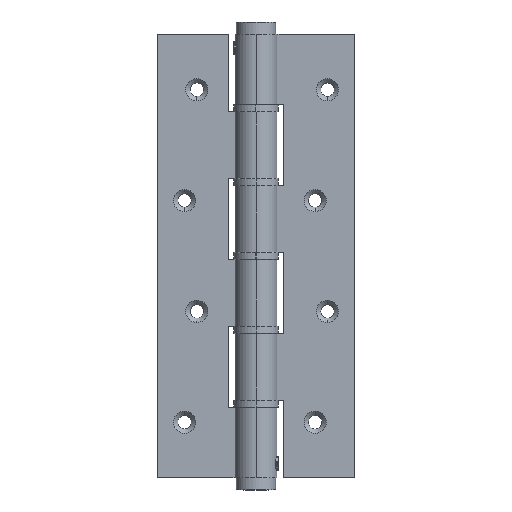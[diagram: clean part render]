
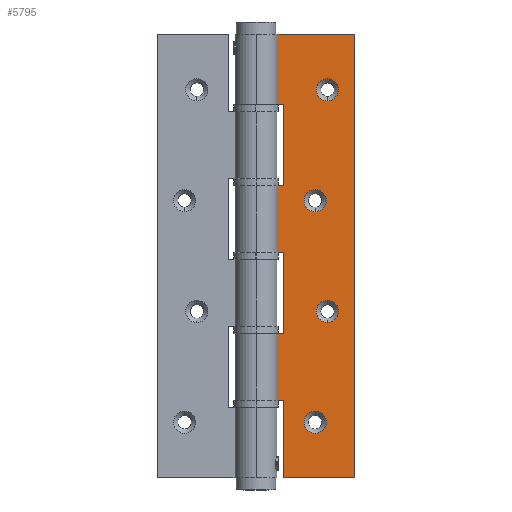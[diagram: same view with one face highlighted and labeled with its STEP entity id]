
A CAD part, front view. The second image highlights one B-rep face of the part: STEP entity #5795.
In plain terms, the highlighted planar face has unit normal (0, -1, 0) as drawn and (-1, 0, 0) by its records, which use the part's own axes.
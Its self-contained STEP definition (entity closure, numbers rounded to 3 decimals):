
#4543=CARTESIAN_POINT('',(-1.202,18.383,104.0));
#4544=VERTEX_POINT('',#4543);
#4552=CARTESIAN_POINT('',(-1.202,18.383,95.0));
#4553=VERTEX_POINT('',#4552);
#4560=CARTESIAN_POINT('',(-1.202,18.383,99.5));
#4561=DIRECTION('',(1.0,0.0,0.0));
#4562=DIRECTION('',(0.0,0.0,1.0));
#4563=AXIS2_PLACEMENT_3D('',#4560,#4561,#4562);
#4564=CIRCLE('',#4563,4.5);
#4565=EDGE_CURVE('',#4544,#4553,#4564,.T.);
#4617=CARTESIAN_POINT('',(-1.202,23.383,59.0));
#4618=VERTEX_POINT('',#4617);
#4626=CARTESIAN_POINT('',(-1.202,23.383,50.0));
#4627=VERTEX_POINT('',#4626);
#4634=CARTESIAN_POINT('',(-1.202,23.383,54.5));
#4635=DIRECTION('',(1.0,0.0,0.0));
#4636=DIRECTION('',(0.0,0.0,1.0));
#4637=AXIS2_PLACEMENT_3D('',#4634,#4635,#4636);
#4638=CIRCLE('',#4637,4.5);
#4639=EDGE_CURVE('',#4618,#4627,#4638,.T.);
#4691=CARTESIAN_POINT('',(-1.202,23.383,-31.0));
#4692=VERTEX_POINT('',#4691);
#4700=CARTESIAN_POINT('',(-1.202,23.383,-40.0));
#4701=VERTEX_POINT('',#4700);
#4708=CARTESIAN_POINT('',(-1.202,23.383,-35.5));
#4709=DIRECTION('',(1.0,0.0,0.0));
#4710=DIRECTION('',(0.0,0.0,1.0));
#4711=AXIS2_PLACEMENT_3D('',#4708,#4709,#4710);
#4712=CIRCLE('',#4711,4.5);
#4713=EDGE_CURVE('',#4692,#4701,#4712,.T.);
#4765=CARTESIAN_POINT('',(-1.202,18.383,14.0));
#4766=VERTEX_POINT('',#4765);
#4774=CARTESIAN_POINT('',(-1.202,18.383,5.0));
#4775=VERTEX_POINT('',#4774);
#4782=CARTESIAN_POINT('',(-1.202,18.383,9.5));
#4783=DIRECTION('',(1.0,0.0,0.0));
#4784=DIRECTION('',(0.0,0.0,1.0));
#4785=AXIS2_PLACEMENT_3D('',#4782,#4783,#4784);
#4786=CIRCLE('',#4785,4.5);
#4787=EDGE_CURVE('',#4766,#4775,#4786,.T.);
#4798=CARTESIAN_POINT('',(-1.202,18.383,9.5));
#4799=DIRECTION('',(1.0,0.0,0.0));
#4800=DIRECTION('',(0.0,0.0,1.0));
#4801=AXIS2_PLACEMENT_3D('',#4798,#4799,#4800);
#4802=CIRCLE('',#4801,4.5);
#4803=EDGE_CURVE('',#4775,#4766,#4802,.T.);
#4840=CARTESIAN_POINT('',(-1.202,23.383,-35.5));
#4841=DIRECTION('',(1.0,0.0,0.0));
#4842=DIRECTION('',(0.0,0.0,1.0));
#4843=AXIS2_PLACEMENT_3D('',#4840,#4841,#4842);
#4844=CIRCLE('',#4843,4.5);
#4845=EDGE_CURVE('',#4701,#4692,#4844,.T.);
#4882=CARTESIAN_POINT('',(-1.202,23.383,54.5));
#4883=DIRECTION('',(1.0,0.0,0.0));
#4884=DIRECTION('',(0.0,0.0,1.0));
#4885=AXIS2_PLACEMENT_3D('',#4882,#4883,#4884);
#4886=CIRCLE('',#4885,4.5);
#4887=EDGE_CURVE('',#4627,#4618,#4886,.T.);
#4924=CARTESIAN_POINT('',(-1.202,18.383,99.5));
#4925=DIRECTION('',(1.0,0.0,0.0));
#4926=DIRECTION('',(0.0,0.0,1.0));
#4927=AXIS2_PLACEMENT_3D('',#4924,#4925,#4926);
#4928=CIRCLE('',#4927,4.5);
#4929=EDGE_CURVE('',#4553,#4544,#4928,.T.);
#4965=CARTESIAN_POINT('',(-1.202,5.383,90.5));
#4966=VERTEX_POINT('',#4965);
#4967=CARTESIAN_POINT('',(-1.202,5.383,122.0));
#4968=VERTEX_POINT('',#4967);
#4969=CARTESIAN_POINT('',(-1.202,5.383,90.5));
#4970=DIRECTION('',(0.0,0.0,1.0));
#4971=VECTOR('',#4970,31.5);
#4972=LINE('',#4969,#4971);
#4973=EDGE_CURVE('',#4966,#4968,#4972,.T.);
#5005=CARTESIAN_POINT('',(-1.202,2.904,90.5));
#5006=VERTEX_POINT('',#5005);
#5007=CARTESIAN_POINT('',(-1.202,2.904,90.5));
#5008=DIRECTION('',(0.0,1.0,0.0));
#5009=VECTOR('',#5008,2.479);
#5010=LINE('',#5007,#5009);
#5011=EDGE_CURVE('',#5006,#4966,#5010,.T.);
#5070=CARTESIAN_POINT('',(-1.202,5.383,3.5));
#5071=VERTEX_POINT('',#5070);
#5072=CARTESIAN_POINT('',(-1.202,2.904,3.5));
#5073=VERTEX_POINT('',#5072);
#5074=CARTESIAN_POINT('',(-1.202,5.383,3.5));
#5075=DIRECTION('',(0.0,-1.0,0.0));
#5076=VECTOR('',#5075,2.479);
#5077=LINE('',#5074,#5076);
#5078=EDGE_CURVE('',#5071,#5073,#5077,.T.);
#5144=CARTESIAN_POINT('',(-1.202,5.383,-29.5));
#5145=VERTEX_POINT('',#5144);
#5146=CARTESIAN_POINT('',(-1.202,5.383,-29.5));
#5147=DIRECTION('',(0.0,0.0,1.0));
#5148=VECTOR('',#5147,33.0);
#5149=LINE('',#5146,#5148);
#5150=EDGE_CURVE('',#5145,#5071,#5149,.T.);
#5175=CARTESIAN_POINT('',(-1.202,2.904,-29.5));
#5176=VERTEX_POINT('',#5175);
#5177=CARTESIAN_POINT('',(-1.202,2.904,-29.5));
#5178=DIRECTION('',(0.0,1.0,0.0));
#5179=VECTOR('',#5178,2.479);
#5180=LINE('',#5177,#5179);
#5181=EDGE_CURVE('',#5176,#5145,#5180,.T.);
#5240=CARTESIAN_POINT('',(-1.202,5.383,63.5));
#5241=VERTEX_POINT('',#5240);
#5242=CARTESIAN_POINT('',(-1.202,2.904,63.5));
#5243=VERTEX_POINT('',#5242);
#5244=CARTESIAN_POINT('',(-1.202,5.383,63.5));
#5245=DIRECTION('',(0.0,-1.0,0.0));
#5246=VECTOR('',#5245,2.479);
#5247=LINE('',#5244,#5246);
#5248=EDGE_CURVE('',#5241,#5243,#5247,.T.);
#5314=CARTESIAN_POINT('',(-1.202,5.383,30.5));
#5315=VERTEX_POINT('',#5314);
#5316=CARTESIAN_POINT('',(-1.202,5.383,30.5));
#5317=DIRECTION('',(0.0,0.0,1.0));
#5318=VECTOR('',#5317,33.0);
#5319=LINE('',#5316,#5318);
#5320=EDGE_CURVE('',#5315,#5241,#5319,.T.);
#5345=CARTESIAN_POINT('',(-1.202,2.904,30.5));
#5346=VERTEX_POINT('',#5345);
#5347=CARTESIAN_POINT('',(-1.202,2.904,30.5));
#5348=DIRECTION('',(0.0,1.0,0.0));
#5349=VECTOR('',#5348,2.479);
#5350=LINE('',#5347,#5349);
#5351=EDGE_CURVE('',#5346,#5315,#5350,.T.);
#5419=CARTESIAN_POINT('',(-1.202,34.383,122.0));
#5420=VERTEX_POINT('',#5419);
#5427=CARTESIAN_POINT('',(-1.202,5.383,122.0));
#5428=DIRECTION('',(0.0,1.0,0.0));
#5429=VECTOR('',#5428,29.);
#5430=LINE('',#5427,#5429);
#5431=EDGE_CURVE('',#4968,#5420,#5430,.T.);
#5509=CARTESIAN_POINT('',(-1.202,2.904,-58.0));
#5510=VERTEX_POINT('',#5509);
#5511=CARTESIAN_POINT('',(-1.202,2.904,-58.0));
#5512=DIRECTION('',(0.0,0.0,1.0));
#5513=VECTOR('',#5512,28.5);
#5514=LINE('',#5511,#5513);
#5515=EDGE_CURVE('',#5510,#5176,#5514,.T.);
#5548=CARTESIAN_POINT('',(-1.202,2.904,3.5));
#5549=DIRECTION('',(0.0,0.0,1.0));
#5550=VECTOR('',#5549,27.0);
#5551=LINE('',#5548,#5550);
#5552=EDGE_CURVE('',#5073,#5346,#5551,.T.);
#5735=CARTESIAN_POINT('',(-1.202,2.904,63.5));
#5736=DIRECTION('',(0.0,0.0,1.0));
#5737=VECTOR('',#5736,27.0);
#5738=LINE('',#5735,#5737);
#5739=EDGE_CURVE('',#5243,#5006,#5738,.T.);
#5746=CARTESIAN_POINT('',(-1.202,2.904,-58.0));
#5747=DIRECTION('',(-1.0,0.0,0.0));
#5748=DIRECTION('',(0.0,0.0,1.0));
#5749=AXIS2_PLACEMENT_3D('',#5746,#5747,#5748);
#5750=PLANE('',#5749);
#5751=ORIENTED_EDGE('',*,*,#4973,.T.);
#5752=ORIENTED_EDGE('',*,*,#5431,.T.);
#5753=CARTESIAN_POINT('',(-1.202,34.383,-58.0));
#5754=VERTEX_POINT('',#5753);
#5755=CARTESIAN_POINT('',(-1.202,34.383,-58.0));
#5756=DIRECTION('',(0.0,0.0,1.0));
#5757=VECTOR('',#5756,180.0);
#5758=LINE('',#5755,#5757);
#5759=EDGE_CURVE('',#5754,#5420,#5758,.T.);
#5760=ORIENTED_EDGE('',*,*,#5759,.F.);
#5761=CARTESIAN_POINT('',(-1.202,34.383,-58.0));
#5762=DIRECTION('',(0.0,-1.0,0.0));
#5763=VECTOR('',#5762,31.479);
#5764=LINE('',#5761,#5763);
#5765=EDGE_CURVE('',#5754,#5510,#5764,.T.);
#5766=ORIENTED_EDGE('',*,*,#5765,.T.);
#5767=ORIENTED_EDGE('',*,*,#5515,.T.);
#5768=ORIENTED_EDGE('',*,*,#5181,.T.);
#5769=ORIENTED_EDGE('',*,*,#5150,.T.);
#5770=ORIENTED_EDGE('',*,*,#5078,.T.);
#5771=ORIENTED_EDGE('',*,*,#5552,.T.);
#5772=ORIENTED_EDGE('',*,*,#5351,.T.);
#5773=ORIENTED_EDGE('',*,*,#5320,.T.);
#5774=ORIENTED_EDGE('',*,*,#5248,.T.);
#5775=ORIENTED_EDGE('',*,*,#5739,.T.);
#5776=ORIENTED_EDGE('',*,*,#5011,.T.);
#5777=EDGE_LOOP('',(#5751,#5752,#5760,#5766,#5767,#5768,#5769,#5770,#5771,#5772,#5773,#5774,#5775,#5776));
#5778=FACE_OUTER_BOUND('',#5777,.T.);
#5779=ORIENTED_EDGE('',*,*,#4787,.T.);
#5780=ORIENTED_EDGE('',*,*,#4803,.T.);
#5781=EDGE_LOOP('',(#5779,#5780));
#5782=FACE_BOUND('',#5781,.T.);
#5783=ORIENTED_EDGE('',*,*,#4713,.T.);
#5784=ORIENTED_EDGE('',*,*,#4845,.T.);
#5785=EDGE_LOOP('',(#5783,#5784));
#5786=FACE_BOUND('',#5785,.T.);
#5787=ORIENTED_EDGE('',*,*,#4639,.T.);
#5788=ORIENTED_EDGE('',*,*,#4887,.T.);
#5789=EDGE_LOOP('',(#5787,#5788));
#5790=FACE_BOUND('',#5789,.T.);
#5791=ORIENTED_EDGE('',*,*,#4565,.T.);
#5792=ORIENTED_EDGE('',*,*,#4929,.T.);
#5793=EDGE_LOOP('',(#5791,#5792));
#5794=FACE_BOUND('',#5793,.T.);
#5795=ADVANCED_FACE('',(#5778,#5782,#5786,#5790,#5794),#5750,.T.);
